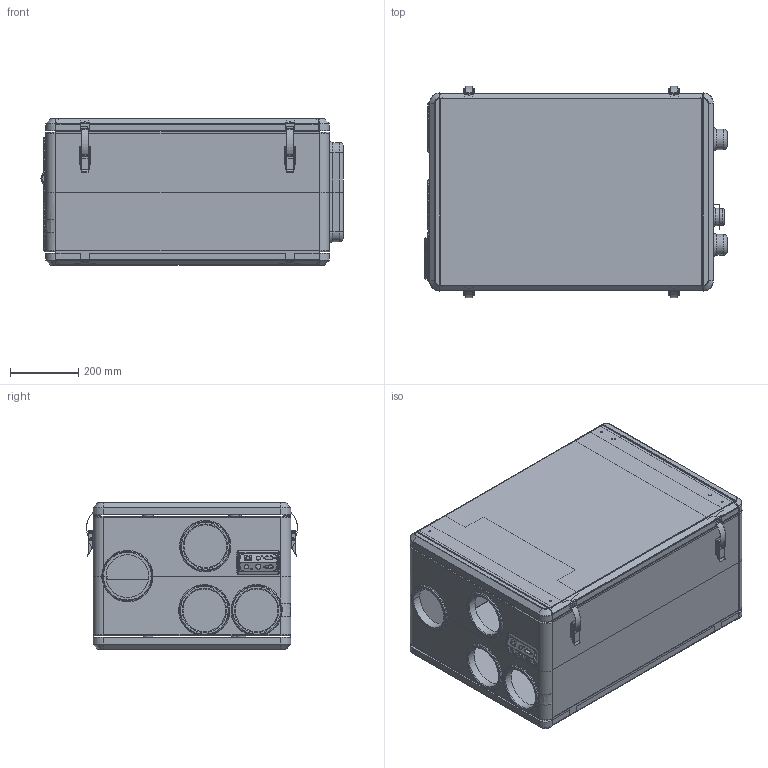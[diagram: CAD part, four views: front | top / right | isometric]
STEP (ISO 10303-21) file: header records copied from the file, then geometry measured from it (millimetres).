
FILE_DESCRIPTION(/* description */ ('Unknown'),/* implementation_level */ '2;1');
FILE_NAME(/* name */ '0 EPP',/* time_stamp */ '2025-11-27T13:54:12+01:00',/* author */ ('Unknown'),/* organization */ ('Unknown'),/* preprocessor_version */ 'ST-DEVELOPER v16.7',/* originating_system */ 'DEX',/* authorisation */ $);
FILE_SCHEMA (('AUTOMOTIVE_DESIGN {1 0 10303 214 3 1 1}'));
Length unit declared in the file: millimetre
Products named in the file (12): 0 EPP; Burta; drzwi piankowe1; SZKIELET_CZ22_13_10_2021_oa_16; SZKIELET_CZ11_13_10_2021_oa_18; mocowanie scienne; Ramka drzwi 2; Pokrywka 2x; Obudowa; Uchwyt syfonu; Blacha pod uchwt syfonu; Pokrywka dlawi
Assembly tree (15 placements, depth 2):
  0 EPP
    Burta  x4
    drzwi piankowe1  x2
    SZKIELET_CZ22_13_10_2021_oa_16
    SZKIELET_CZ11_13_10_2021_oa_18
    mocowanie scienne
    Ramka drzwi 2
    Pokrywka 2x
    Obudowa
    Uchwyt syfonu
    Blacha pod uchwt syfonu
    Pokrywka dlawi
Bounding box: 883.86 x 618.26 x 429.41 mm (x, y, z)
Volume: 49413870.5 mm3; surface area: 7568094 mm2
Topology: 30 solids, 30 shells, 1696 faces, 4394 edges, 2841 vertices
Faces by surface type: plane 734, cylinder 660, torus 189, bspline 57, cone 56
Full cylindrical faces by diameter (mm): 3 x7, 3.5 x3, 4 x8, 4.1 x24, 4.2 x2, 4.6 x4, 4.7 x8, 5 x12, 5.3 x8, 6 x22, 6.4 x4, 7.4 x6, 8.5 x3, 12.5 x5, 15.5 x2, 30 x14, 55 x1, 65 x1, 125 x3
Entity records: 39735 total; most frequent: CARTESIAN_POINT 9944, DIRECTION 6110, ORIENTED_EDGE 5674, EDGE_CURVE 2837, AXIS2_PLACEMENT_3D 2331, VERTEX_POINT 1899, EDGE_LOOP 1564, FACE_BOUND 1564
